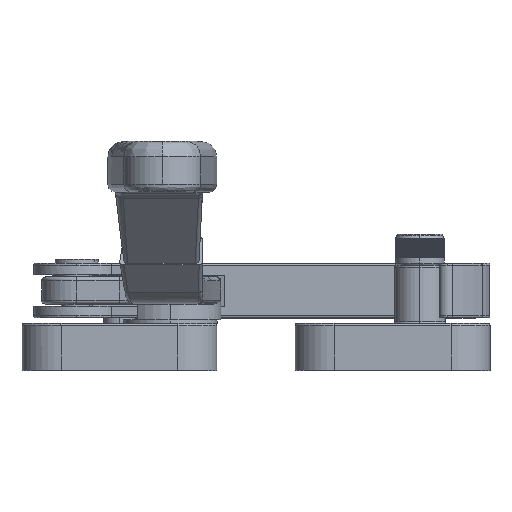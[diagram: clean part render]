
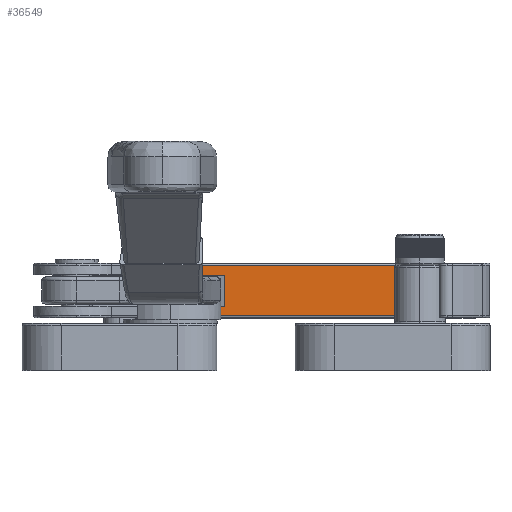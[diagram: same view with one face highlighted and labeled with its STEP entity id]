
A CAD part, top view. The second image highlights one B-rep face of the part: STEP entity #36549.
In plain terms, the highlighted planar face has unit normal (0, 0, 1).
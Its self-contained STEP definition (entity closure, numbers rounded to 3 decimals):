
#1711 = LINE ( 'NONE', #47175, #25824 ) ;
#1762 = DIRECTION ( 'NONE',  ( 0., -1., 0. ) ) ;
#2578 = VERTEX_POINT ( 'NONE', #15220 ) ;
#3559 = EDGE_CURVE ( 'NONE', #24810, #34631, #32579, .T. ) ;
#5431 = CARTESIAN_POINT ( 'NONE',  ( 31.788, 6.5, -15. ) ) ;
#6636 = DIRECTION ( 'NONE',  ( 1., 0., 0. ) ) ;
#7853 = VECTOR ( 'NONE', #19487, 1000. ) ;
#9103 = ORIENTED_EDGE ( 'NONE', *, *, #3559, .T. ) ;
#9703 = VERTEX_POINT ( 'NONE', #5431 ) ;
#10786 = VECTOR ( 'NONE', #48306, 1000. ) ;
#10841 = CARTESIAN_POINT ( 'NONE',  ( 38., 4., -15. ) ) ;
#10950 = VERTEX_POINT ( 'NONE', #30289 ) ;
#11498 = EDGE_CURVE ( 'NONE', #10950, #26578, #28193, .T. ) ;
#11994 = CARTESIAN_POINT ( 'NONE',  ( 88., 7., -15. ) ) ;
#13244 = CARTESIAN_POINT ( 'NONE',  ( 31.788, 7., -15. ) ) ;
#13495 = LINE ( 'NONE', #13244, #36477 ) ;
#13874 = ORIENTED_EDGE ( 'NONE', *, *, #24608, .T. ) ;
#14426 = DIRECTION ( 'NONE',  ( 0., -1., 0. ) ) ;
#14615 = VECTOR ( 'NONE', #39077, 1000. ) ;
#14626 = CARTESIAN_POINT ( 'NONE',  ( 0., 6.5, -15. ) ) ;
#15220 = CARTESIAN_POINT ( 'NONE',  ( 31.788, -6.5, -15. ) ) ;
#15426 = CARTESIAN_POINT ( 'NONE',  ( 0., 7., -15. ) ) ;
#16492 = CARTESIAN_POINT ( 'NONE',  ( 88., 6.5, -15. ) ) ;
#19487 = DIRECTION ( 'NONE',  ( 0., 1., 0. ) ) ;
#19549 = CARTESIAN_POINT ( 'NONE',  ( 31.788, 4., -15. ) ) ;
#20606 = EDGE_CURVE ( 'NONE', #25840, #24810, #33659, .T. ) ;
#20663 = ORIENTED_EDGE ( 'NONE', *, *, #11498, .T. ) ;
#21458 = DIRECTION ( 'NONE',  ( 0., -1., 0. ) ) ;
#21706 = ORIENTED_EDGE ( 'NONE', *, *, #44348, .F. ) ;
#21892 = ORIENTED_EDGE ( 'NONE', *, *, #20606, .T. ) ;
#22448 = ORIENTED_EDGE ( 'NONE', *, *, #28231, .T. ) ;
#24558 = LINE ( 'NONE', #39810, #14615 ) ;
#24608 = EDGE_CURVE ( 'NONE', #34631, #2578, #13495, .T. ) ;
#24810 = VERTEX_POINT ( 'NONE', #42450 ) ;
#25824 = VECTOR ( 'NONE', #28424, 1000. ) ;
#25840 = VERTEX_POINT ( 'NONE', #10841 ) ;
#26038 = VERTEX_POINT ( 'NONE', #19549 ) ;
#26474 = ORIENTED_EDGE ( 'NONE', *, *, #49067, .T. ) ;
#26578 = VERTEX_POINT ( 'NONE', #16492 ) ;
#26645 = FACE_OUTER_BOUND ( 'NONE', #42398, .T. ) ;
#27142 = VECTOR ( 'NONE', #21458, 1000. ) ;
#28193 = LINE ( 'NONE', #11994, #7853 ) ;
#28231 = EDGE_CURVE ( 'NONE', #9703, #26038, #48426, .T. ) ;
#28424 = DIRECTION ( 'NONE',  ( 1., 0., 0. ) ) ;
#30112 = CARTESIAN_POINT ( 'NONE',  ( 31.788, -4., -15. ) ) ;
#30289 = CARTESIAN_POINT ( 'NONE',  ( 88., -6.5, -15. ) ) ;
#30634 = DIRECTION ( 'NONE',  ( 0., 0., 1. ) ) ;
#31622 = EDGE_CURVE ( 'NONE', #2578, #10950, #24558, .T. ) ;
#32579 = LINE ( 'NONE', #41089, #10786 ) ;
#33406 = PLANE ( 'NONE',  #38860 ) ;
#33659 = LINE ( 'NONE', #40661, #47512 ) ;
#34631 = VERTEX_POINT ( 'NONE', #30112 ) ;
#36477 = VECTOR ( 'NONE', #1762, 1000. ) ;
#36549 = ADVANCED_FACE ( 'NONE', ( #26645 ), #33406, .T. ) ;
#36963 = CARTESIAN_POINT ( 'NONE',  ( 31.788, 7., -15. ) ) ;
#36978 = ORIENTED_EDGE ( 'NONE', *, *, #31622, .T. ) ;
#38860 = AXIS2_PLACEMENT_3D ( 'NONE', #15426, #30634, #44903 ) ;
#39077 = DIRECTION ( 'NONE',  ( 1., 0., 0. ) ) ;
#39810 = CARTESIAN_POINT ( 'NONE',  ( 0., -6.5, -15. ) ) ;
#40661 = CARTESIAN_POINT ( 'NONE',  ( 38., 7., -15. ) ) ;
#40864 = LINE ( 'NONE', #14626, #44008 ) ;
#41089 = CARTESIAN_POINT ( 'NONE',  ( 0., -4., -15. ) ) ;
#42398 = EDGE_LOOP ( 'NONE', ( #13874, #36978, #20663, #21706, #22448, #26474, #21892, #9103 ) ) ;
#42450 = CARTESIAN_POINT ( 'NONE',  ( 38., -4., -15. ) ) ;
#44008 = VECTOR ( 'NONE', #6636, 1000. ) ;
#44348 = EDGE_CURVE ( 'NONE', #9703, #26578, #40864, .T. ) ;
#44903 = DIRECTION ( 'NONE',  ( 1., 0., 0. ) ) ;
#47175 = CARTESIAN_POINT ( 'NONE',  ( 0., 4., -15. ) ) ;
#47512 = VECTOR ( 'NONE', #14426, 1000. ) ;
#48306 = DIRECTION ( 'NONE',  ( -1., 0., 0. ) ) ;
#48426 = LINE ( 'NONE', #36963, #27142 ) ;
#49067 = EDGE_CURVE ( 'NONE', #26038, #25840, #1711, .T. ) ;
